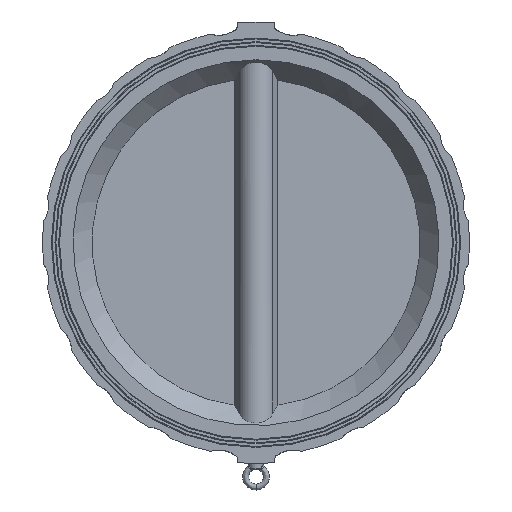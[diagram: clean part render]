
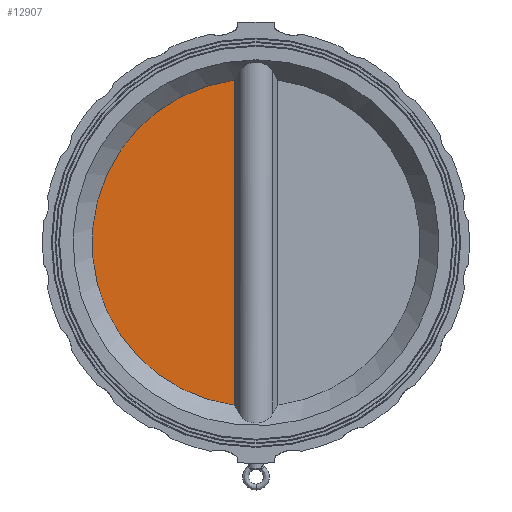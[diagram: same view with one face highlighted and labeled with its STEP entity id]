
A CAD part, front view. The second image highlights one B-rep face of the part: STEP entity #12907.
In plain terms, the highlighted planar face has unit normal (0, -1, 0).
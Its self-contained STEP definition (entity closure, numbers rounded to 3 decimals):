
#77 = CARTESIAN_POINT ( 'NONE',  ( -34., 5., -267.851 ) ) ;
#2700 = DIRECTION ( 'NONE',  ( 0., -1., 0. ) ) ;
#2892 = LINE ( 'NONE', #12946, #6513 ) ;
#4506 = DIRECTION ( 'NONE',  ( 0., -1., 0. ) ) ;
#5329 = CARTESIAN_POINT ( 'NONE',  ( 0., 5., 0. ) ) ;
#5919 = CARTESIAN_POINT ( 'NONE',  ( 0., 5., 0. ) ) ;
#6513 = VECTOR ( 'NONE', #6595, 1000. ) ;
#6595 = DIRECTION ( 'NONE',  ( 0., 0., 1. ) ) ;
#8125 = AXIS2_PLACEMENT_3D ( 'NONE', #5329, #2700, #9249 ) ;
#8424 = VERTEX_POINT ( 'NONE', #77 ) ;
#8930 = EDGE_CURVE ( 'NONE', #13376, #8424, #16099, .T. ) ;
#9249 = DIRECTION ( 'NONE',  ( 0., 0., -1. ) ) ;
#9658 = DIRECTION ( 'NONE',  ( 0., 0., -1. ) ) ;
#10857 = PLANE ( 'NONE',  #14209 ) ;
#11370 = CARTESIAN_POINT ( 'NONE',  ( -34., 5., 267.851 ) ) ;
#12907 = ADVANCED_FACE ( 'NONE', ( #15459 ), #10857, .T. ) ;
#12946 = CARTESIAN_POINT ( 'NONE',  ( -34., 5., 267.851 ) ) ;
#13376 = VERTEX_POINT ( 'NONE', #11370 ) ;
#14167 = EDGE_CURVE ( 'NONE', #8424, #13376, #2892, .T. ) ;
#14209 = AXIS2_PLACEMENT_3D ( 'NONE', #5919, #4506, #9658 ) ;
#14314 = ORIENTED_EDGE ( 'NONE', *, *, #8930, .T. ) ;
#15209 = EDGE_LOOP ( 'NONE', ( #14314, #16722 ) ) ;
#15459 = FACE_OUTER_BOUND ( 'NONE', #15209, .T. ) ;
#16099 = CIRCLE ( 'NONE', #8125, 270. ) ;
#16722 = ORIENTED_EDGE ( 'NONE', *, *, #14167, .T. ) ;
